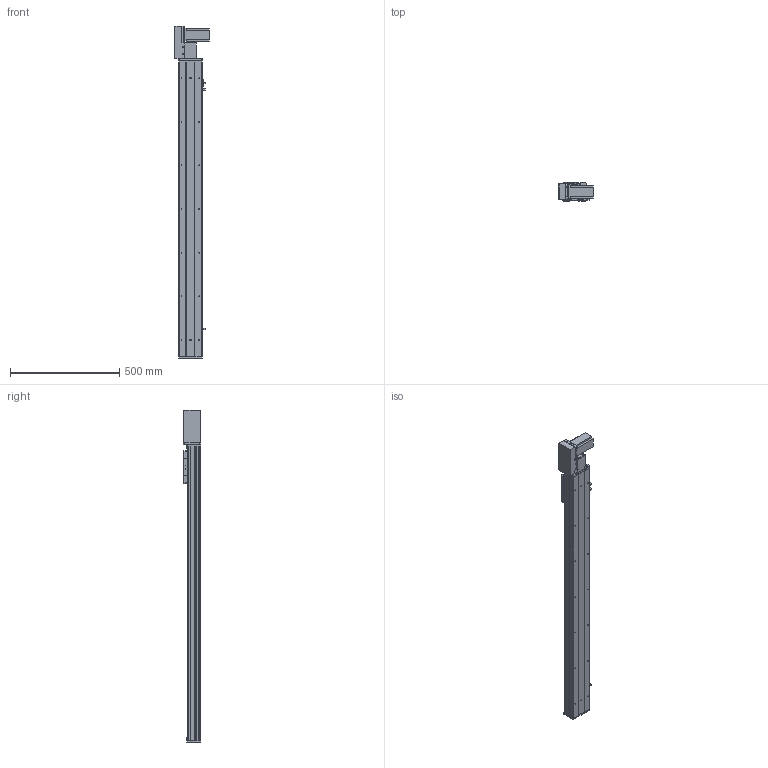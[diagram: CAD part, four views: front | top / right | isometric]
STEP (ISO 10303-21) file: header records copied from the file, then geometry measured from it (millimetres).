
FILE_DESCRIPTION (( 'STEP AP203' ), '1' );
FILE_NAME ('Y10CB-D90-S1100-BL-P400W.STEP', '2020-02-15T07:58:04', ( '微软用户' ), ( '微软中国' ), 'SwSTEP 2.0', 'SolidWorks 2017', '' );
FILE_SCHEMA (( 'CONFIG_CONTROL_DESIGN' ));
Length unit declared in the file: millimetre
Products named in the file (18): Y10CB- 掛极耜裔啣-毀---; Y10B--々湍喘謫眊--666; Y10C---詩湍揤啣; Y10B-耜蚾蟀諉啣----; 10CB9-掛极; 0B-萇儂楊擘啣; 10CB-耜裔; san松下电机400不带刹车----; Y135C-陔俋离換覜結え-; 0B-源倛裔啣; Y100-135俋离換覜ん--; 0B-埴倛裔啣; 0CB-雄赽釱---; Y10CB-D90-S1100-BL-P400W; Y俋欶BR----; 0Cb-俋欶---; 10CB-詩湍-; Y10B-々湍喘謫眊楊擘啣--
Assembly tree (21 placements, depth 2):
  Y10CB-D90-S1100-BL-P400W
    0CB-雄赽釱---
    0Cb-俋欶---
    Y10B-々湍喘謫眊楊擘啣--
    Y10B--々湍喘謫眊--666
    Y10B-耜蚾蟀諉啣----
    0B-萇儂楊擘啣
    san松下电机400不带刹车----
    0B-源倛裔啣
    0B-埴倛裔啣
    Y俋欶BR----
    10CB-詩湍-
    Y10CB- 掛极耜裔啣-毀---  x2
    Y10C---詩湍揤啣  x2
    10CB9-掛极
    10CB-耜裔
    Y135C-陔俋离換覜結え-
    Y100-135俋离換覜ん--  x3
Bounding box: 157.5 x 80.5 x 1522.5 mm (x, y, z)
Volume: 3311413.9 mm3; surface area: 1500587.7 mm2
Topology: 21 solids, 21 shells, 990 faces, 2643 edges, 1730 vertices
Faces by surface type: cylinder 487, plane 479, cone 24
Entity records: 30904 total; most frequent: CARTESIAN_POINT 5469, DIRECTION 4994, ORIENTED_EDGE 4756, EDGE_CURVE 2378, AXIS2_PLACEMENT_3D 1785, VERTEX_POINT 1556, LINE 1424, VECTOR 1424
